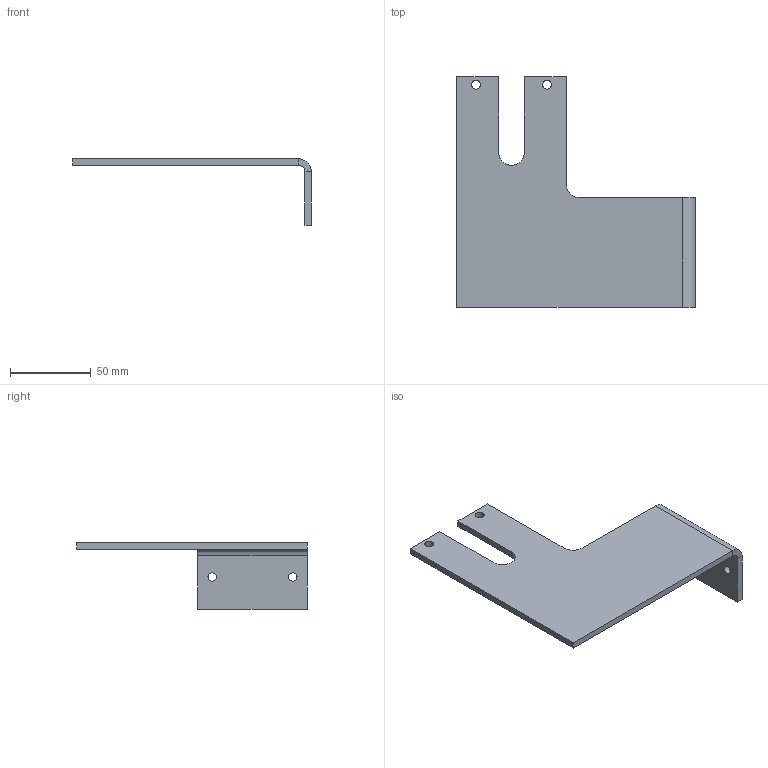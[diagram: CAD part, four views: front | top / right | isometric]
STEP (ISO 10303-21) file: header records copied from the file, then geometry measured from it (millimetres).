
FILE_DESCRIPTION(('STEP AP214'), '1');
FILE_NAME('Skoba_S1_Vert_L', '2014-12-05T09:08:01', ('Ìèøèí Ñ.À.'), ('ÎÎÎ "ÝËÜÑÒÅÐ Ãàçýëåêòðîíèêà"'), 'ASCON STEP Converter 1.3', 'ASCON Math Kernel', '');
FILE_SCHEMA(('AUTOMOTIVE_DESIGN { 1 0 10303 214 3 1 1}'));
Length unit declared in the file: millimetre
Products named in the file (1): 7
Bounding box: 148 x 143 x 41.2 mm (x, y, z)
Volume: 66359.8 mm3; surface area: 36452.6 mm2
Topology: 1 solids, 1 shells, 25 faces, 61 edges, 38 vertices
Faces by surface type: plane 17, cylinder 8
Full cylindrical faces by diameter (mm): 5.2 x2, 5.5 x2
Entity records: 782 total; most frequent: DIRECTION 129, CARTESIAN_POINT 125, ORIENTED_EDGE 122, EDGE_CURVE 61, LINE 45, VECTOR 45, AXIS2_PLACEMENT_3D 42, VERTEX_POINT 38
